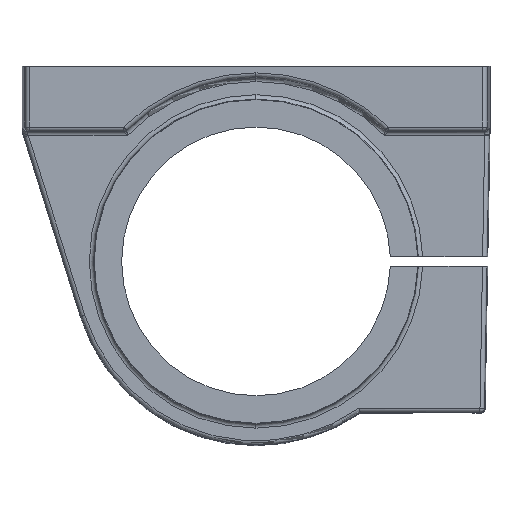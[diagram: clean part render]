
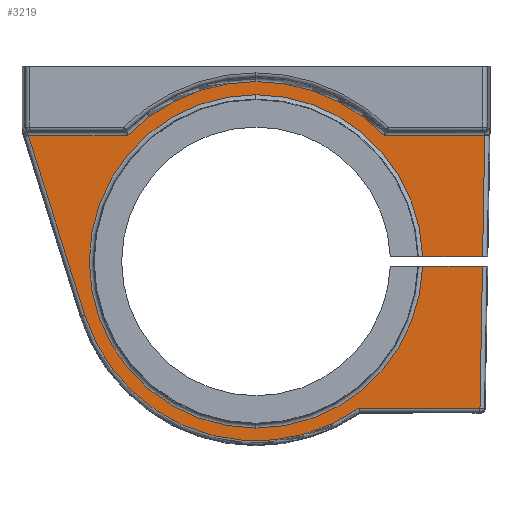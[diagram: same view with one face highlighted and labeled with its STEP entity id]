
A CAD part, front view. The second image highlights one B-rep face of the part: STEP entity #3219.
In plain terms, the highlighted planar face has unit normal (0, -1, 0).
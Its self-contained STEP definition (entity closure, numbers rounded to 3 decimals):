
#8 = DIRECTION ( 'NONE',  ( 1., 0., 0. ) ) ;
#56 = VECTOR ( 'NONE', #3284, 1000. ) ;
#106 = VECTOR ( 'NONE', #8, 1000. ) ;
#108 = DIRECTION ( 'NONE',  ( 0.017, 0., 1. ) ) ;
#130 = LINE ( 'NONE', #2032, #2480 ) ;
#215 = DIRECTION ( 'NONE',  ( 0., -1., 0. ) ) ;
#294 = DIRECTION ( 'NONE',  ( 0., 0., 1. ) ) ;
#324 = CIRCLE ( 'NONE', #1161, 38.465 ) ;
#377 = CARTESIAN_POINT ( 'NONE',  ( 29.686, -13., -10.5 ) ) ;
#435 = CIRCLE ( 'NONE', #3119, 41.5 ) ;
#486 = CIRCLE ( 'NONE', #726, 41.5 ) ;
#502 = LINE ( 'NONE', #1249, #1515 ) ;
#534 = LINE ( 'NONE', #821, #1561 ) ;
#556 = EDGE_CURVE ( 'NONE', #3490, #2536, #1051, .T. ) ;
#651 = ORIENTED_EDGE ( 'NONE', *, *, #4362, .T. ) ;
#684 = CARTESIAN_POINT ( 'NONE',  ( 0., -13., -39.5 ) ) ;
#693 = LINE ( 'NONE', #4321, #1278 ) ;
#726 = AXIS2_PLACEMENT_3D ( 'NONE', #2752, #215, #3115 ) ;
#804 = EDGE_CURVE ( 'NONE', #4087, #1863, #4398, .T. ) ;
#821 = CARTESIAN_POINT ( 'NONE',  ( 30.104, -13., -10.5 ) ) ;
#836 = DIRECTION ( 'NONE',  ( 0., 0., 1. ) ) ;
#883 = EDGE_CURVE ( 'NONE', #3269, #1651, #693, .T. ) ;
#896 = CIRCLE ( 'NONE', #3594, 41.395 ) ;
#941 = CARTESIAN_POINT ( 'NONE',  ( 52.285, -13., -38.425 ) ) ;
#967 = ORIENTED_EDGE ( 'NONE', *, *, #556, .T. ) ;
#1000 = DIRECTION ( 'NONE',  ( 0., 0., 1. ) ) ;
#1024 = ORIENTED_EDGE ( 'NONE', *, *, #4101, .T. ) ;
#1051 = CIRCLE ( 'NONE', #1357, 38.465 ) ;
#1078 = CARTESIAN_POINT ( 'NONE',  ( -39.485, -13., -51.93 ) ) ;
#1092 = EDGE_CURVE ( 'NONE', #1157, #3021, #435, .T. ) ;
#1113 = LINE ( 'NONE', #4384, #106 ) ;
#1157 = VERTEX_POINT ( 'NONE', #1536 ) ;
#1161 = AXIS2_PLACEMENT_3D ( 'NONE', #3586, #3608, #294 ) ;
#1163 = VECTOR ( 'NONE', #4241, 1000. ) ;
#1217 = CARTESIAN_POINT ( 'NONE',  ( 38.45, -13., -40.575 ) ) ;
#1249 = CARTESIAN_POINT ( 'NONE',  ( -39.485, -13., -51.93 ) ) ;
#1258 = EDGE_CURVE ( 'NONE', #2796, #2132, #896, .T. ) ;
#1278 = VECTOR ( 'NONE', #3881, 1000. ) ;
#1281 = EDGE_CURVE ( 'NONE', #4506, #2796, #502, .T. ) ;
#1351 = DIRECTION ( 'NONE',  ( 0., 0., 1. ) ) ;
#1357 = AXIS2_PLACEMENT_3D ( 'NONE', #3144, #4175, #3530 ) ;
#1392 = LINE ( 'NONE', #4687, #4458 ) ;
#1439 = DIRECTION ( 'NONE',  ( -1., 0., 0. ) ) ;
#1462 = CARTESIAN_POINT ( 'NONE',  ( 52.781, -13., -10.054 ) ) ;
#1494 = CARTESIAN_POINT ( 'NONE',  ( 0., -13., -39.5 ) ) ;
#1510 = CARTESIAN_POINT ( 'NONE',  ( 23.763, -13., -73.395 ) ) ;
#1515 = VECTOR ( 'NONE', #4514, 1000. ) ;
#1536 = CARTESIAN_POINT ( 'NONE',  ( 0., -13., 2. ) ) ;
#1561 = VECTOR ( 'NONE', #2290, 1000. ) ;
#1606 = ORIENTED_EDGE ( 'NONE', *, *, #1258, .T. ) ;
#1631 = DIRECTION ( 'NONE',  ( 0., 0., 1. ) ) ;
#1651 = VERTEX_POINT ( 'NONE', #1217 ) ;
#1711 = AXIS2_PLACEMENT_3D ( 'NONE', #4199, #1995, #1631 ) ;
#1735 = FACE_OUTER_BOUND ( 'NONE', #3378, .T. ) ;
#1828 = CARTESIAN_POINT ( 'NONE',  ( 52.248, -13., -40.575 ) ) ;
#1863 = VERTEX_POINT ( 'NONE', #3837 ) ;
#1951 = EDGE_CURVE ( 'NONE', #3021, #4506, #1392, .T. ) ;
#1995 = DIRECTION ( 'NONE',  ( 0., 1., 0. ) ) ;
#2032 = CARTESIAN_POINT ( 'NONE',  ( 52.781, -13., -10.054 ) ) ;
#2053 = EDGE_CURVE ( 'NONE', #3247, #3490, #324, .T. ) ;
#2132 = VERTEX_POINT ( 'NONE', #1510 ) ;
#2149 = DIRECTION ( 'NONE',  ( 0., -1., 0. ) ) ;
#2177 = ORIENTED_EDGE ( 'NONE', *, *, #804, .T. ) ;
#2290 = DIRECTION ( 'NONE',  ( -1., 0., 0. ) ) ;
#2295 = EDGE_CURVE ( 'NONE', #1651, #3247, #3766, .T. ) ;
#2327 = ORIENTED_EDGE ( 'NONE', *, *, #2053, .T. ) ;
#2408 = CARTESIAN_POINT ( 'NONE',  ( 38.45, -13., -38.425 ) ) ;
#2410 = CARTESIAN_POINT ( 'NONE',  ( 0., -13., -1.035 ) ) ;
#2459 = VERTEX_POINT ( 'NONE', #377 ) ;
#2480 = VECTOR ( 'NONE', #108, 1000. ) ;
#2481 = ORIENTED_EDGE ( 'NONE', *, *, #1281, .T. ) ;
#2536 = VERTEX_POINT ( 'NONE', #2408 ) ;
#2630 = EDGE_CURVE ( 'NONE', #2536, #4087, #4501, .T. ) ;
#2668 = CARTESIAN_POINT ( 'NONE',  ( 0., -13., -38.425 ) ) ;
#2681 = ORIENTED_EDGE ( 'NONE', *, *, #2295, .T. ) ;
#2697 = AXIS2_PLACEMENT_3D ( 'NONE', #4001, #4659, #1000 ) ;
#2752 = CARTESIAN_POINT ( 'NONE',  ( 0., -13., -39.5 ) ) ;
#2796 = VERTEX_POINT ( 'NONE', #1078 ) ;
#2958 = DIRECTION ( 'NONE',  ( 0., -1., 0. ) ) ;
#3021 = VERTEX_POINT ( 'NONE', #3349 ) ;
#3106 = ORIENTED_EDGE ( 'NONE', *, *, #1092, .T. ) ;
#3115 = DIRECTION ( 'NONE',  ( 0., 0., 1. ) ) ;
#3119 = AXIS2_PLACEMENT_3D ( 'NONE', #684, #2149, #1351 ) ;
#3144 = CARTESIAN_POINT ( 'NONE',  ( 0., -13., -39.5 ) ) ;
#3186 = CARTESIAN_POINT ( 'NONE',  ( 0., -13., -77.965 ) ) ;
#3219 = ADVANCED_FACE ( 'NONE', ( #1735 ), #3231, .F. ) ;
#3231 = PLANE ( 'NONE',  #2697 ) ;
#3247 = VERTEX_POINT ( 'NONE', #3186 ) ;
#3257 = CARTESIAN_POINT ( 'NONE',  ( 51.675, -13., -73.395 ) ) ;
#3269 = VERTEX_POINT ( 'NONE', #1828 ) ;
#3284 = DIRECTION ( 'NONE',  ( 0.017, 0., 1. ) ) ;
#3314 = ORIENTED_EDGE ( 'NONE', *, *, #3913, .T. ) ;
#3349 = CARTESIAN_POINT ( 'NONE',  ( -29.686, -13., -10.5 ) ) ;
#3378 = EDGE_LOOP ( 'NONE', ( #2681, #2327, #967, #3713, #2177, #4599, #651, #3106, #4442, #2481, #1606, #1024, #3314, #4239 ) ) ;
#3490 = VERTEX_POINT ( 'NONE', #2410 ) ;
#3530 = DIRECTION ( 'NONE',  ( 0., 0., 1. ) ) ;
#3586 = CARTESIAN_POINT ( 'NONE',  ( 0., -13., -39.5 ) ) ;
#3594 = AXIS2_PLACEMENT_3D ( 'NONE', #1494, #2958, #836 ) ;
#3608 = DIRECTION ( 'NONE',  ( 0., 1., 0. ) ) ;
#3713 = ORIENTED_EDGE ( 'NONE', *, *, #2630, .T. ) ;
#3766 = CIRCLE ( 'NONE', #1711, 38.465 ) ;
#3837 = CARTESIAN_POINT ( 'NONE',  ( 52.773, -13., -10.5 ) ) ;
#3881 = DIRECTION ( 'NONE',  ( -1., 0., 0. ) ) ;
#3913 = EDGE_CURVE ( 'NONE', #4411, #3269, #130, .T. ) ;
#3951 = EDGE_CURVE ( 'NONE', #1863, #2459, #534, .T. ) ;
#4001 = CARTESIAN_POINT ( 'NONE',  ( 0., -13., -39.5 ) ) ;
#4087 = VERTEX_POINT ( 'NONE', #941 ) ;
#4101 = EDGE_CURVE ( 'NONE', #2132, #4411, #1113, .T. ) ;
#4175 = DIRECTION ( 'NONE',  ( 0., 1., 0. ) ) ;
#4199 = CARTESIAN_POINT ( 'NONE',  ( 0., -13., -39.5 ) ) ;
#4239 = ORIENTED_EDGE ( 'NONE', *, *, #883, .T. ) ;
#4241 = DIRECTION ( 'NONE',  ( 1., 0., 0. ) ) ;
#4321 = CARTESIAN_POINT ( 'NONE',  ( 0., -13., -40.575 ) ) ;
#4362 = EDGE_CURVE ( 'NONE', #2459, #1157, #486, .T. ) ;
#4384 = CARTESIAN_POINT ( 'NONE',  ( 52.64, -13., -73.395 ) ) ;
#4398 = LINE ( 'NONE', #1462, #56 ) ;
#4411 = VERTEX_POINT ( 'NONE', #3257 ) ;
#4417 = CARTESIAN_POINT ( 'NONE',  ( -52.527, -13., -10.5 ) ) ;
#4442 = ORIENTED_EDGE ( 'NONE', *, *, #1951, .T. ) ;
#4458 = VECTOR ( 'NONE', #1439, 1000. ) ;
#4501 = LINE ( 'NONE', #2668, #1163 ) ;
#4506 = VERTEX_POINT ( 'NONE', #4417 ) ;
#4514 = DIRECTION ( 'NONE',  ( 0.3, 0., -0.954 ) ) ;
#4599 = ORIENTED_EDGE ( 'NONE', *, *, #3951, .T. ) ;
#4659 = DIRECTION ( 'NONE',  ( 0., 1., 0. ) ) ;
#4687 = CARTESIAN_POINT ( 'NONE',  ( -53.763, -13., -10.5 ) ) ;
